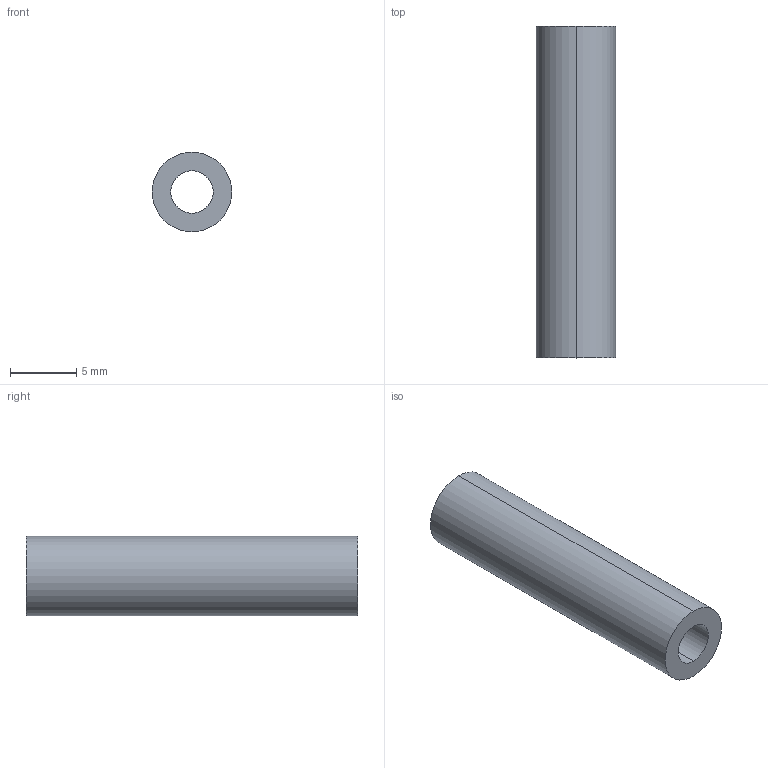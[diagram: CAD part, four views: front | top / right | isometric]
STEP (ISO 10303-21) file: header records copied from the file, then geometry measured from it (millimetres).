
FILE_DESCRIPTION (( 'STEP AP214' ), '1' );
FILE_NAME ('629-00877 Standoff, Round Thru M3 25mm.STEP', '2017-01-23T17:45:58', ( '' ), ( '' ), 'SwSTEP 2.0', 'SolidWorks 2014', '' );
FILE_SCHEMA (( 'AUTOMOTIVE_DESIGN' ));
Length unit declared in the file: millimetre
Products named in the file (2): 629-00877 Standoff, Round Thru M3 25mm
Bounding box: 6 x 25 x 6 mm (x, y, z)
Volume: 505.8 mm3; surface area: 763 mm2
Topology: 1 solids, 1 shells, 6 faces, 12 edges, 8 vertices
Faces by surface type: cylinder 4, plane 2
Entity records: 217 total; most frequent: DIRECTION 36, CARTESIAN_POINT 28, ORIENTED_EDGE 24, AXIS2_PLACEMENT_3D 16, EDGE_CURVE 12, VERTEX_POINT 8, EDGE_LOOP 8, CIRCLE 8
